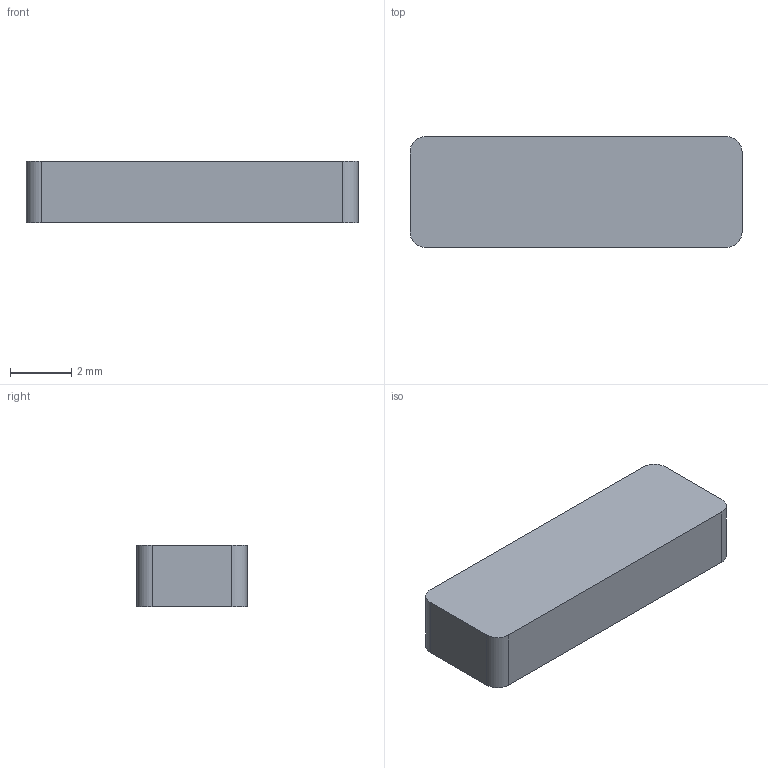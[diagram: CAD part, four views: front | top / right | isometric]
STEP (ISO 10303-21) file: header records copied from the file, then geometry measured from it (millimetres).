
FILE_DESCRIPTION(('Open CASCADE Model'),'2;1');
FILE_NAME('C27_R2_Speaker_Ear_Preload_2_FREE_STATE', '2026-09-09T17:52:57',('Author'),('Open CASCADE'), 'Open CASCADE STEP processor 7.9','build123d','Unknown');
FILE_SCHEMA(('AUTOMOTIVE_DESIGN { 1 0 10303 214 1 1 1 1 }'));
Length unit declared in the file: millimetre
Products named in the file (1): C27_R2_Speaker_Ear_Preload_2_FREE_STATE
Bounding box: 10.8 x 3.6 x 2 mm (x, y, z)
Volume: 77.3 mm3; surface area: 133.2 mm2
Topology: 1 solids, 1 shells, 10 faces, 24 edges, 16 vertices
Faces by surface type: plane 6, cylinder 4
Entity records: 629 total; most frequent: DIRECTION 102, CARTESIAN_POINT 99, LINE 56, VECTOR 56, ORIENTED_EDGE 48, PCURVE 48, DEFINITIONAL_REPRESENTATION 48, EDGE_CURVE 24
